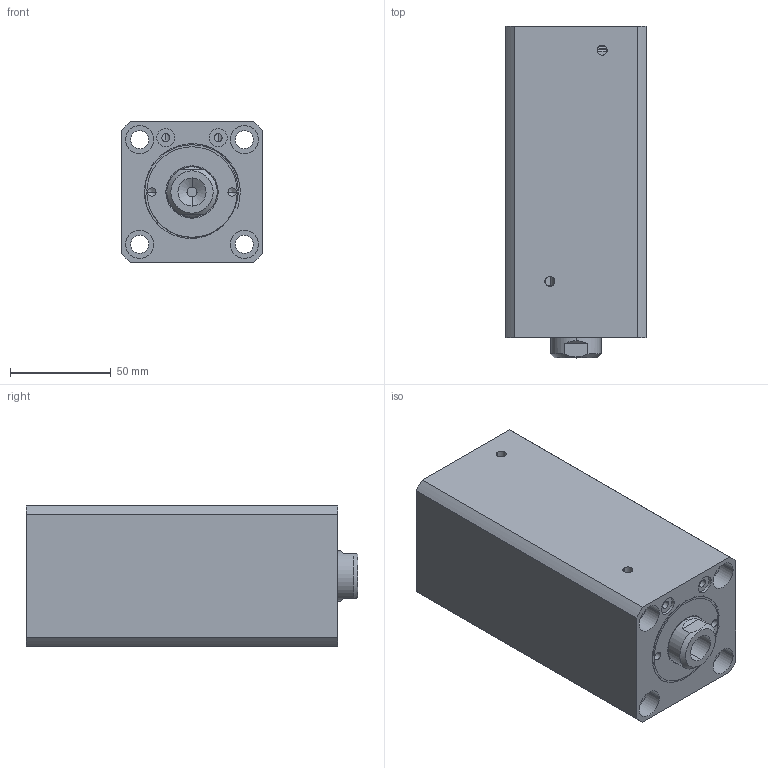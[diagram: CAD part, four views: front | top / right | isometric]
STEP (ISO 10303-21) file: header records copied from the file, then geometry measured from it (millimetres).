
FILE_DESCRIPTION (( 'STEP AP214' ), '1' );
FILE_NAME ('chtb-sdma40x100n_asm.STEP', '2018-06-06T07:08:36', ( 'Windows' ), ( 'Microsoft' ), 'SwSTEP 2.0', 'SolidWorks 2015', '' );
FILE_SCHEMA (( 'AUTOMOTIVE_DESIGN' ));
Length unit declared in the file: millimetre
Products named in the file (4): CHTB-SD40QG; CHTB-SDMA40X100NBT; CHTB-SD40X100NHSG; chtb-sdma40x100n_asm
Assembly tree (3 placements, depth 2):
  chtb-sdma40x100n_asm
    CHTB-SD40X100NHSG
    CHTB-SDMA40X100NBT
    CHTB-SD40QG
Bounding box: 70 x 165 x 70 mm (x, y, z)
Volume: 622406.9 mm3; surface area: 120514.9 mm2
Topology: 3 solids, 3 shells, 157 faces, 413 edges, 274 vertices
Faces by surface type: cylinder 84, plane 36, torus 14, bspline 14, cone 9
Entity records: 10139 total; most frequent: CARTESIAN_POINT 6157, ORIENTED_EDGE 814, DIRECTION 768, EDGE_CURVE 407, AXIS2_PLACEMENT_3D 326, VERTEX_POINT 274, EDGE_LOOP 193, CIRCLE 177
